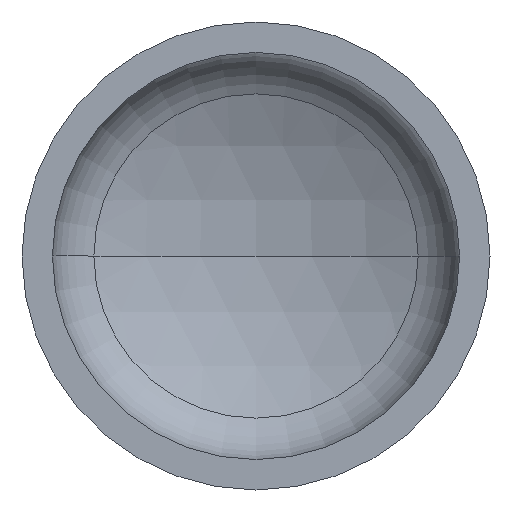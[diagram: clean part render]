
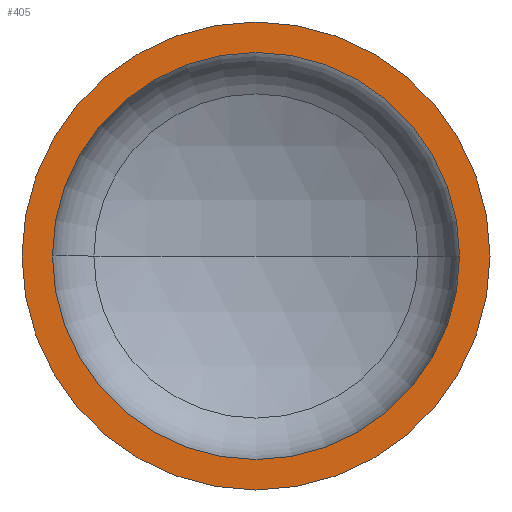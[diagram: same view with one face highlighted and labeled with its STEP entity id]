
A CAD part, front view. The second image highlights one B-rep face of the part: STEP entity #405.
In plain terms, the highlighted planar face has unit normal (0, -1, 0).
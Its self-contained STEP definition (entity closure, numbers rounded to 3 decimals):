
#10 = CARTESIAN_POINT ( 'NONE',  ( 0., 0., 0. ) ) ;
#13 = CARTESIAN_POINT ( 'NONE',  ( 0., 0., 0. ) ) ;
#14 = DIRECTION ( 'NONE',  ( 0., -1., 0. ) ) ;
#17 = ORIENTED_EDGE ( 'NONE', *, *, #410, .F. ) ;
#18 = DIRECTION ( 'NONE',  ( 1., 0., 0. ) ) ;
#24 = CARTESIAN_POINT ( 'NONE',  ( -400., 0., 0. ) ) ;
#27 = VERTEX_POINT ( 'NONE', #215 ) ;
#33 = VERTEX_POINT ( 'NONE', #322 ) ;
#50 = FACE_BOUND ( 'NONE', #106, .T. ) ;
#51 = EDGE_LOOP ( 'NONE', ( #109, #393 ) ) ;
#62 = ORIENTED_EDGE ( 'NONE', *, *, #267, .F. ) ;
#68 = VERTEX_POINT ( 'NONE', #246 ) ;
#71 = VERTEX_POINT ( 'NONE', #264 ) ;
#77 = DIRECTION ( 'NONE',  ( 0., 1., 0. ) ) ;
#86 = AXIS2_PLACEMENT_3D ( 'NONE', #13, #14, #18 ) ;
#90 = AXIS2_PLACEMENT_3D ( 'NONE', #10, #97, #100 ) ;
#97 = DIRECTION ( 'NONE',  ( 0., -1., 0. ) ) ;
#100 = DIRECTION ( 'NONE',  ( 1., 0., 0. ) ) ;
#106 = EDGE_LOOP ( 'NONE', ( #17, #62 ) ) ;
#109 = ORIENTED_EDGE ( 'NONE', *, *, #377, .T. ) ;
#114 = DIRECTION ( 'NONE',  ( 1., 0., 0. ) ) ;
#115 = CIRCLE ( 'NONE', #86, 348. ) ;
#164 = AXIS2_PLACEMENT_3D ( 'NONE', #176, #192, #194 ) ;
#176 = CARTESIAN_POINT ( 'NONE',  ( 0., 0., 0. ) ) ;
#186 = DIRECTION ( 'NONE',  ( 0., -1., 0. ) ) ;
#192 = DIRECTION ( 'NONE',  ( 0., -1., 0. ) ) ;
#193 = CARTESIAN_POINT ( 'NONE',  ( 0., 0., 0. ) ) ;
#194 = DIRECTION ( 'NONE',  ( 1., 0., 0. ) ) ;
#215 = CARTESIAN_POINT ( 'NONE',  ( 348., 0., 0. ) ) ;
#224 = EDGE_CURVE ( 'NONE', #33, #71, #373, .T. ) ;
#246 = CARTESIAN_POINT ( 'NONE',  ( -348., 0., 0. ) ) ;
#264 = CARTESIAN_POINT ( 'NONE',  ( 400., 0., 0. ) ) ;
#267 = EDGE_CURVE ( 'NONE', #68, #27, #115, .T. ) ;
#292 = CIRCLE ( 'NONE', #90, 400. ) ;
#313 = DIRECTION ( 'NONE',  ( -1., 0., 0. ) ) ;
#322 = CARTESIAN_POINT ( 'NONE',  ( -400., 0., 0. ) ) ;
#330 = FACE_OUTER_BOUND ( 'NONE', #51, .T. ) ;
#347 = PLANE ( 'NONE',  #399 ) ;
#373 = CIRCLE ( 'NONE', #164, 400. ) ;
#374 = CIRCLE ( 'NONE', #407, 348. ) ;
#377 = EDGE_CURVE ( 'NONE', #71, #33, #292, .T. ) ;
#393 = ORIENTED_EDGE ( 'NONE', *, *, #224, .T. ) ;
#399 = AXIS2_PLACEMENT_3D ( 'NONE', #24, #77, #313 ) ;
#405 = ADVANCED_FACE ( 'NONE', ( #50, #330 ), #347, .F. ) ;
#407 = AXIS2_PLACEMENT_3D ( 'NONE', #193, #186, #114 ) ;
#410 = EDGE_CURVE ( 'NONE', #27, #68, #374, .T. ) ;
